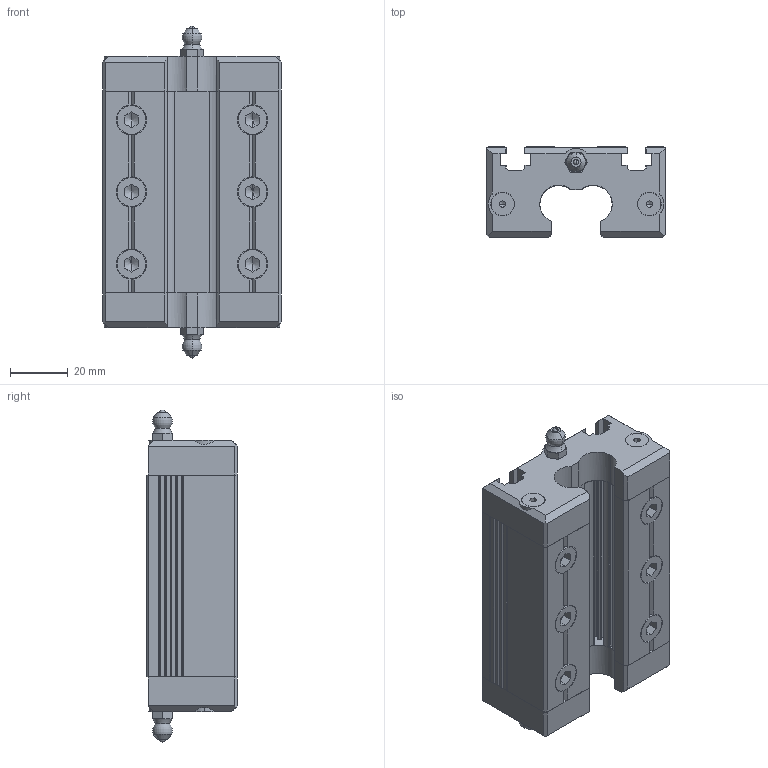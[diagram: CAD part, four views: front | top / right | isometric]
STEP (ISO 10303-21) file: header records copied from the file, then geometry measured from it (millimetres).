
FILE_DESCRIPTION (( 'STEP AP203' ), '1' );
FILE_NAME ('Wellenschlitten WS 4 - 94lg.STEP', '2005-06-07T08:20:20', ( ' ' ), ( ' ' ), 'SwSTEP 2.0', 'SolidWorks 2005143', '' );
FILE_SCHEMA (( 'CONFIG_CONTROL_DESIGN' ));
Length unit declared in the file: millimetre
Products named in the file (1): Wellenschlitten WS 4 - 94lg
Bounding box: 62 x 31.5 x 115.1 mm (x, y, z)
Volume: 125838.6 mm3; surface area: 36814.5 mm2
Topology: 1 solids, 1 shells, 557 faces, 1477 edges, 930 vertices
Faces by surface type: plane 392, cylinder 129, cone 24, torus 8, sphere 4
Entity records: 17298 total; most frequent: CARTESIAN_POINT 3461, ORIENTED_EDGE 2914, DIRECTION 2831, EDGE_CURVE 1457, LINE 999, VECTOR 999, VERTEX_POINT 930, AXIS2_PLACEMENT_3D 916
